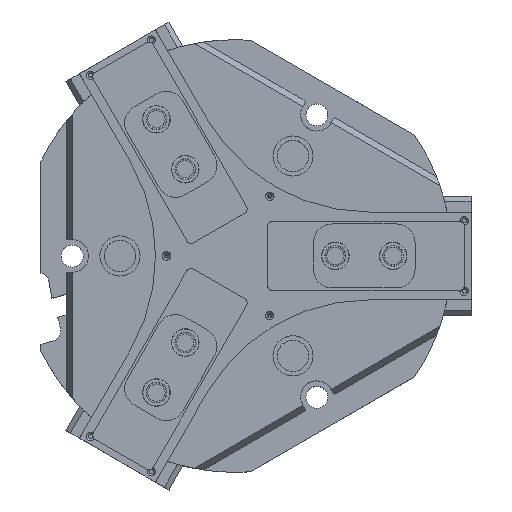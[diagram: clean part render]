
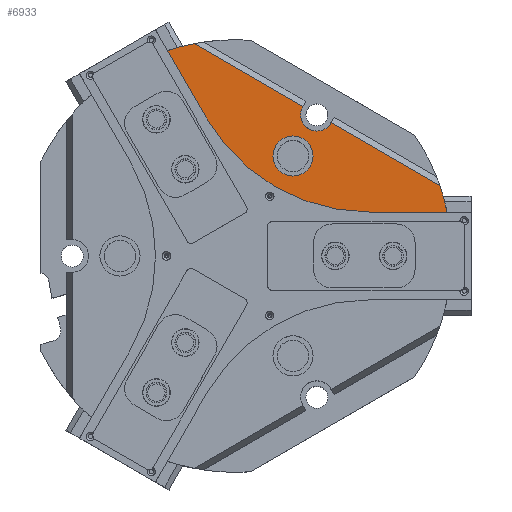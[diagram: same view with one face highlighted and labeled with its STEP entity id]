
A CAD part, top view. The second image highlights one B-rep face of the part: STEP entity #6933.
In plain terms, the highlighted planar face has unit normal (0, 0, 1) as drawn and (0, 1, 0) by its records, which use the part's own axes.
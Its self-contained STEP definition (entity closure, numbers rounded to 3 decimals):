
#146 = CARTESIAN_POINT ( 'NONE',  ( -136.771, 130., 105.119 ) ) ;
#263 = CARTESIAN_POINT ( 'NONE',  ( 0., 130., 0. ) ) ;
#647 = CARTESIAN_POINT ( 'NONE',  ( 0., 130., 76. ) ) ;
#1225 = VECTOR ( 'NONE', #17206, 1000. ) ;
#1332 = LINE ( 'NONE', #5878, #13198 ) ;
#1542 = EDGE_CURVE ( 'NONE', #20302, #20815, #2937, .T. ) ;
#1722 = CARTESIAN_POINT ( 'NONE',  ( 0., 130., 92. ) ) ;
#1762 = DIRECTION ( 'NONE',  ( -1., 0., 0. ) ) ;
#1967 = DIRECTION ( 'NONE',  ( 0., 0., -1. ) ) ;
#2208 = EDGE_LOOP ( 'NONE', ( #21004, #8454 ) ) ;
#2418 = DIRECTION ( 'NONE',  ( 0., -1., 0. ) ) ;
#2534 = CIRCLE ( 'NONE', #17802, 13. ) ;
#2693 = CARTESIAN_POINT ( 'NONE',  ( 0., 130., 92. ) ) ;
#2934 = CARTESIAN_POINT ( 'NONE',  ( -63.37, 130., 62.74 ) ) ;
#2937 = LINE ( 'NONE', #2934, #20380 ) ;
#3107 = ORIENTED_EDGE ( 'NONE', *, *, #6089, .F. ) ;
#3394 = DIRECTION ( 'NONE',  ( 0., 0., 1. ) ) ;
#3503 = CIRCLE ( 'NONE', #9653, 16. ) ;
#3652 = AXIS2_PLACEMENT_3D ( 'NONE', #263, #12034, #1967 ) ;
#4087 = CARTESIAN_POINT ( 'NONE',  ( -13., 130., 130. ) ) ;
#4221 = CARTESIAN_POINT ( 'NONE',  ( 0., 130., 0. ) ) ;
#4338 = CARTESIAN_POINT ( 'NONE',  ( 0., 130., 0. ) ) ;
#4384 = DIRECTION ( 'NONE',  ( 0., 0., 1. ) ) ;
#4462 = CIRCLE ( 'NONE', #8582, 16. ) ;
#4675 = ORIENTED_EDGE ( 'NONE', *, *, #7625, .F. ) ;
#5108 = CARTESIAN_POINT ( 'NONE',  ( 113.156, 130., 130.2 ) ) ;
#5166 = EDGE_CURVE ( 'NONE', #11625, #19462, #18050, .T. ) ;
#5405 = CARTESIAN_POINT ( 'NONE',  ( 63.37, 130., 62.74 ) ) ;
#5613 = AXIS2_PLACEMENT_3D ( 'NONE', #19235, #2418, #14200 ) ;
#5878 = CARTESIAN_POINT ( 'NONE',  ( 13., 130., 145. ) ) ;
#5893 = DIRECTION ( 'NONE',  ( 0., 0., -1. ) ) ;
#5999 = CARTESIAN_POINT ( 'NONE',  ( 39.122, 130., 48.741 ) ) ;
#6032 = DIRECTION ( 'NONE',  ( 0., 0., -1. ) ) ;
#6089 = EDGE_CURVE ( 'NONE', #9193, #11625, #10337, .T. ) ;
#6933 = ADVANCED_FACE ( 'NONE', ( #9202, #18766 ), #12489, .F. ) ;
#7069 = VERTEX_POINT ( 'NONE', #15460 ) ;
#7171 = VECTOR ( 'NONE', #1762, 1000. ) ;
#7537 = DIRECTION ( 'NONE',  ( 0., 0., -1. ) ) ;
#7606 = DIRECTION ( 'NONE',  ( -1., 0., 0. ) ) ;
#7625 = EDGE_CURVE ( 'NONE', #20302, #11443, #18985, .T. ) ;
#7915 = CARTESIAN_POINT ( 'NONE',  ( -13., 130., 130. ) ) ;
#8349 = CARTESIAN_POINT ( 'NONE',  ( 13., 130., 130. ) ) ;
#8454 = ORIENTED_EDGE ( 'NONE', *, *, #16452, .F. ) ;
#8582 = AXIS2_PLACEMENT_3D ( 'NONE', #2693, #14501, #4384 ) ;
#8701 = ORIENTED_EDGE ( 'NONE', *, *, #21792, .F. ) ;
#8801 = VERTEX_POINT ( 'NONE', #647 ) ;
#8856 = EDGE_CURVE ( 'NONE', #11499, #20815, #13104, .T. ) ;
#9038 = AXIS2_PLACEMENT_3D ( 'NONE', #4221, #16003, #5893 ) ;
#9161 = ORIENTED_EDGE ( 'NONE', *, *, #20163, .F. ) ;
#9193 = VERTEX_POINT ( 'NONE', #17928 ) ;
#9202 = FACE_BOUND ( 'NONE', #2208, .T. ) ;
#9278 = LINE ( 'NONE', #4087, #17738 ) ;
#9633 = LINE ( 'NONE', #5405, #1225 ) ;
#9653 = AXIS2_PLACEMENT_3D ( 'NONE', #1722, #13499, #3394 ) ;
#10337 = CIRCLE ( 'NONE', #16752, 172.5 ) ;
#11440 = EDGE_CURVE ( 'NONE', #12360, #7069, #9278, .T. ) ;
#11443 = VERTEX_POINT ( 'NONE', #5999 ) ;
#11499 = VERTEX_POINT ( 'NONE', #16261 ) ;
#11625 = VERTEX_POINT ( 'NONE', #5108 ) ;
#11671 = DIRECTION ( 'NONE',  ( 0., -1., 0. ) ) ;
#12034 = DIRECTION ( 'NONE',  ( 0., 1., 0. ) ) ;
#12360 = VERTEX_POINT ( 'NONE', #7915 ) ;
#12485 = ORIENTED_EDGE ( 'NONE', *, *, #17174, .F. ) ;
#12489 = PLANE ( 'NONE',  #5613 ) ;
#12717 = DIRECTION ( 'NONE',  ( 0., 0., 1. ) ) ;
#13082 = EDGE_CURVE ( 'NONE', #13378, #8801, #4462, .T. ) ;
#13104 = CIRCLE ( 'NONE', #9038, 172.5 ) ;
#13121 = CARTESIAN_POINT ( 'NONE',  ( 13., 130., 130.2 ) ) ;
#13198 = VECTOR ( 'NONE', #7537, 1000. ) ;
#13378 = VERTEX_POINT ( 'NONE', #15654 ) ;
#13385 = CARTESIAN_POINT ( 'NONE',  ( 0., 130., 130. ) ) ;
#13450 = ORIENTED_EDGE ( 'NONE', *, *, #5166, .F. ) ;
#13499 = DIRECTION ( 'NONE',  ( 0., 1., 0. ) ) ;
#13508 = DIRECTION ( 'NONE',  ( 0., 0., 1. ) ) ;
#13537 = CARTESIAN_POINT ( 'NONE',  ( 0., 130., 130.2 ) ) ;
#13561 = VECTOR ( 'NONE', #7606, 1000. ) ;
#14037 = CARTESIAN_POINT ( 'NONE',  ( -39.122, 130., 48.741 ) ) ;
#14200 = DIRECTION ( 'NONE',  ( 0., 0., -1. ) ) ;
#14319 = EDGE_CURVE ( 'NONE', #12360, #21738, #2534, .T. ) ;
#14501 = DIRECTION ( 'NONE',  ( 0., 1., 0. ) ) ;
#15460 = CARTESIAN_POINT ( 'NONE',  ( -13., 130., 130.2 ) ) ;
#15654 = CARTESIAN_POINT ( 'NONE',  ( 0., 130., 108. ) ) ;
#16003 = DIRECTION ( 'NONE',  ( 0., -1., 0. ) ) ;
#16150 = DIRECTION ( 'NONE',  ( 0., -1., 0. ) ) ;
#16261 = CARTESIAN_POINT ( 'NONE',  ( -113.156, 130., 130.2 ) ) ;
#16452 = EDGE_CURVE ( 'NONE', #8801, #13378, #3503, .T. ) ;
#16502 = ORIENTED_EDGE ( 'NONE', *, *, #14319, .T. ) ;
#16752 = AXIS2_PLACEMENT_3D ( 'NONE', #4338, #16150, #6032 ) ;
#16796 = ORIENTED_EDGE ( 'NONE', *, *, #1542, .T. ) ;
#17174 = EDGE_CURVE ( 'NONE', #19462, #21738, #1332, .T. ) ;
#17206 = DIRECTION ( 'NONE',  ( 0.866, 0., 0.5 ) ) ;
#17732 = CARTESIAN_POINT ( 'NONE',  ( 0., 130., 130.2 ) ) ;
#17738 = VECTOR ( 'NONE', #12717, 1000. ) ;
#17802 = AXIS2_PLACEMENT_3D ( 'NONE', #13385, #11671, #13508 ) ;
#17816 = EDGE_LOOP ( 'NONE', ( #16796, #21635, #8701, #20851, #16502, #12485, #13450, #3107, #9161, #4675 ) ) ;
#17928 = CARTESIAN_POINT ( 'NONE',  ( 136.771, 130., 105.119 ) ) ;
#18050 = LINE ( 'NONE', #17732, #13561 ) ;
#18766 = FACE_OUTER_BOUND ( 'NONE', #17816, .T. ) ;
#18985 = CIRCLE ( 'NONE', #3652, 62.5 ) ;
#19235 = CARTESIAN_POINT ( 'NONE',  ( 0., 130., 172.5 ) ) ;
#19462 = VERTEX_POINT ( 'NONE', #13121 ) ;
#19691 = DIRECTION ( 'NONE',  ( -0.866, 0., 0.5 ) ) ;
#20163 = EDGE_CURVE ( 'NONE', #11443, #9193, #9633, .T. ) ;
#20302 = VERTEX_POINT ( 'NONE', #14037 ) ;
#20380 = VECTOR ( 'NONE', #19691, 1000. ) ;
#20687 = LINE ( 'NONE', #13537, #7171 ) ;
#20815 = VERTEX_POINT ( 'NONE', #146 ) ;
#20851 = ORIENTED_EDGE ( 'NONE', *, *, #11440, .F. ) ;
#21004 = ORIENTED_EDGE ( 'NONE', *, *, #13082, .F. ) ;
#21635 = ORIENTED_EDGE ( 'NONE', *, *, #8856, .F. ) ;
#21738 = VERTEX_POINT ( 'NONE', #8349 ) ;
#21792 = EDGE_CURVE ( 'NONE', #7069, #11499, #20687, .T. ) ;
